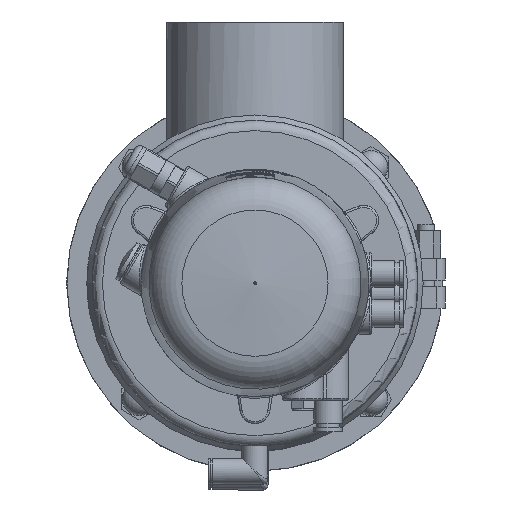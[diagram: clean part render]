
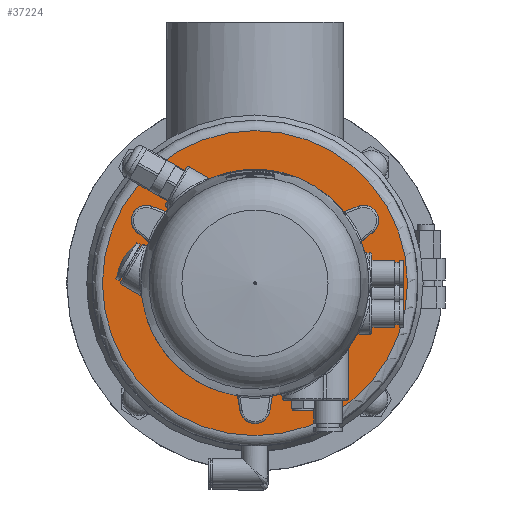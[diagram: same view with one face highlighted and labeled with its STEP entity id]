
A CAD part, front view. The second image highlights one B-rep face of the part: STEP entity #37224.
In plain terms, the highlighted planar face has unit normal (0, -1, 0) as drawn and (0, 1, 0) by its records, which use the part's own axes.
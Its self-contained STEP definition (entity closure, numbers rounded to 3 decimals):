
#816 = CIRCLE ( 'NONE', #43727, 10. ) ;
#1475 = DIRECTION ( 'NONE',  ( 0., 0., 1. ) ) ;
#5231 = ORIENTED_EDGE ( 'NONE', *, *, #15918, .F. ) ;
#6282 = ORIENTED_EDGE ( 'NONE', *, *, #50826, .T. ) ;
#7316 = EDGE_LOOP ( 'NONE', ( #22249 ) ) ;
#8261 = EDGE_CURVE ( 'NONE', #43456, #43456, #19745, .T. ) ;
#8639 = EDGE_LOOP ( 'NONE', ( #6282 ) ) ;
#8784 = FACE_OUTER_BOUND ( 'NONE', #7316, .T. ) ;
#10088 = AXIS2_PLACEMENT_3D ( 'NONE', #47325, #42376, #47969 ) ;
#15693 = DIRECTION ( 'NONE',  ( 0., 1., 0. ) ) ;
#15918 = EDGE_CURVE ( 'NONE', #47328, #47328, #37290, .T. ) ;
#19536 = EDGE_CURVE ( 'NONE', #47645, #47645, #30867, .T. ) ;
#19745 = CIRCLE ( 'NONE', #28071, 73. ) ;
#22249 = ORIENTED_EDGE ( 'NONE', *, *, #8261, .T. ) ;
#23899 = CARTESIAN_POINT ( 'NONE',  ( -78., 263., 0. ) ) ;
#24559 = DIRECTION ( 'NONE',  ( 0., -1., 0. ) ) ;
#25611 = AXIS2_PLACEMENT_3D ( 'NONE', #31368, #45791, #1475 ) ;
#28071 = AXIS2_PLACEMENT_3D ( 'NONE', #60464, #15693, #40222 ) ;
#29124 = DIRECTION ( 'NONE',  ( 0., -1., 0. ) ) ;
#29129 = FACE_BOUND ( 'NONE', #60223, .T. ) ;
#30867 = CIRCLE ( 'NONE', #25611, 2.1 ) ;
#31368 = CARTESIAN_POINT ( 'NONE',  ( 0., 263., 17.5 ) ) ;
#33419 = FACE_BOUND ( 'NONE', #8639, .T. ) ;
#34410 = DIRECTION ( 'NONE',  ( 0., 0., -1. ) ) ;
#37224 = ADVANCED_FACE ( 'NONE', ( #59853, #29129, #8784, #33419 ), #53989, .F. ) ;
#37290 = CIRCLE ( 'NONE', #10088, 2.1 ) ;
#39943 = DIRECTION ( 'NONE',  ( 0., 0., -1. ) ) ;
#40222 = DIRECTION ( 'NONE',  ( 0., 0., -1. ) ) ;
#42376 = DIRECTION ( 'NONE',  ( 0., 1., 0. ) ) ;
#43456 = VERTEX_POINT ( 'NONE', #63681 ) ;
#43727 = AXIS2_PLACEMENT_3D ( 'NONE', #53987, #29124, #34410 ) ;
#45791 = DIRECTION ( 'NONE',  ( 0., 1., 0. ) ) ;
#47325 = CARTESIAN_POINT ( 'NONE',  ( 0., 263., -17.5 ) ) ;
#47328 = VERTEX_POINT ( 'NONE', #51568 ) ;
#47645 = VERTEX_POINT ( 'NONE', #63915 ) ;
#47969 = DIRECTION ( 'NONE',  ( 0., 0., 1. ) ) ;
#50044 = VERTEX_POINT ( 'NONE', #59488 ) ;
#50826 = EDGE_CURVE ( 'NONE', #50044, #50044, #816, .T. ) ;
#51568 = CARTESIAN_POINT ( 'NONE',  ( 0., 263., -15.4 ) ) ;
#53987 = CARTESIAN_POINT ( 'NONE',  ( 0., 263., 0. ) ) ;
#53989 = PLANE ( 'NONE',  #58258 ) ;
#54258 = EDGE_LOOP ( 'NONE', ( #5231 ) ) ;
#58258 = AXIS2_PLACEMENT_3D ( 'NONE', #23899, #24559, #39943 ) ;
#59372 = ORIENTED_EDGE ( 'NONE', *, *, #19536, .F. ) ;
#59488 = CARTESIAN_POINT ( 'NONE',  ( 0., 263., -10. ) ) ;
#59853 = FACE_BOUND ( 'NONE', #54258, .T. ) ;
#60223 = EDGE_LOOP ( 'NONE', ( #59372 ) ) ;
#60464 = CARTESIAN_POINT ( 'NONE',  ( 0., 263., 0. ) ) ;
#63681 = CARTESIAN_POINT ( 'NONE',  ( 0., 263., -73. ) ) ;
#63915 = CARTESIAN_POINT ( 'NONE',  ( 0., 263., 19.6 ) ) ;
